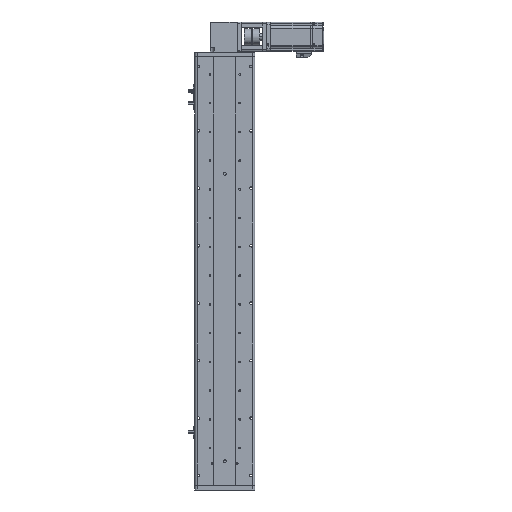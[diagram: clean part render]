
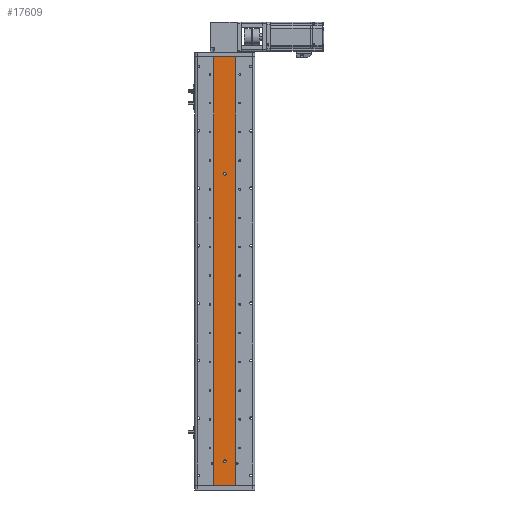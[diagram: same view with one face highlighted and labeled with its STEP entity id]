
A CAD part, front view. The second image highlights one B-rep face of the part: STEP entity #17609.
In plain terms, the highlighted planar face has unit normal (0, -1, 0).
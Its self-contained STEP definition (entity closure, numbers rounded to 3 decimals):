
#16 = LINE ( 'NONE', #1020, #12609 ) ;
#58 = CARTESIAN_POINT ( 'NONE',  ( 23., 1., 447. ) ) ;
#453 = LINE ( 'NONE', #32794, #36598 ) ;
#681 = VERTEX_POINT ( 'NONE', #58 ) ;
#1020 = CARTESIAN_POINT ( 'NONE',  ( 23., 1., -447. ) ) ;
#1435 = DIRECTION ( 'NONE',  ( 0., 0., -1. ) ) ;
#3391 = CIRCLE ( 'NONE', #40937, 3. ) ;
#5125 = ORIENTED_EDGE ( 'NONE', *, *, #14305, .F. ) ;
#5782 = AXIS2_PLACEMENT_3D ( 'NONE', #57994, #29757, #1435 ) ;
#6130 = CARTESIAN_POINT ( 'NONE',  ( 0., 1., 203. ) ) ;
#7127 = CARTESIAN_POINT ( 'NONE',  ( 0., 1., 200. ) ) ;
#10692 = VECTOR ( 'NONE', #52043, 1000. ) ;
#10786 = CARTESIAN_POINT ( 'NONE',  ( 0., 1., -397. ) ) ;
#10842 = EDGE_CURVE ( 'NONE', #681, #25690, #23888, .T. ) ;
#10867 = DIRECTION ( 'NONE',  ( 0., 0., -1. ) ) ;
#11142 = ORIENTED_EDGE ( 'NONE', *, *, #26657, .T. ) ;
#12504 = DIRECTION ( 'NONE',  ( 0., 0., 1. ) ) ;
#12609 = VECTOR ( 'NONE', #38757, 1000. ) ;
#13722 = EDGE_CURVE ( 'NONE', #41852, #50031, #3391, .T. ) ;
#13977 = ORIENTED_EDGE ( 'NONE', *, *, #44255, .F. ) ;
#14305 = EDGE_CURVE ( 'NONE', #15790, #53272, #39441, .T. ) ;
#15554 = DIRECTION ( 'NONE',  ( 0., 0., -1. ) ) ;
#15790 = VERTEX_POINT ( 'NONE', #36862 ) ;
#15983 = VERTEX_POINT ( 'NONE', #43099 ) ;
#17609 = ADVANCED_FACE ( 'NONE', ( #34239, #46843, #21794 ), #40556, .F. ) ;
#18037 = EDGE_CURVE ( 'NONE', #53272, #15790, #60057, .T. ) ;
#19110 = CARTESIAN_POINT ( 'NONE',  ( 23., 1., 447.001 ) ) ;
#21794 = FACE_OUTER_BOUND ( 'NONE', #58313, .T. ) ;
#22004 = CARTESIAN_POINT ( 'NONE',  ( 0., 1., -394. ) ) ;
#23888 = LINE ( 'NONE', #19110, #10692 ) ;
#25451 = CARTESIAN_POINT ( 'NONE',  ( 0., 1., -397. ) ) ;
#25690 = VERTEX_POINT ( 'NONE', #36883 ) ;
#26657 = EDGE_CURVE ( 'NONE', #55710, #15983, #49423, .T. ) ;
#29705 = ORIENTED_EDGE ( 'NONE', *, *, #13722, .F. ) ;
#29757 = DIRECTION ( 'NONE',  ( 0., -1., 0. ) ) ;
#30213 = DIRECTION ( 'NONE',  ( 0., 0., -1. ) ) ;
#32794 = CARTESIAN_POINT ( 'NONE',  ( 23., 1., 447. ) ) ;
#34239 = FACE_BOUND ( 'NONE', #35399, .T. ) ;
#34707 = CIRCLE ( 'NONE', #5782, 3. ) ;
#35140 = ORIENTED_EDGE ( 'NONE', *, *, #10842, .F. ) ;
#35399 = EDGE_LOOP ( 'NONE', ( #29705, #39037 ) ) ;
#36598 = VECTOR ( 'NONE', #52001, 1000. ) ;
#36862 = CARTESIAN_POINT ( 'NONE',  ( 0., 1., -400. ) ) ;
#36883 = CARTESIAN_POINT ( 'NONE',  ( 23., 1., -447. ) ) ;
#37005 = CARTESIAN_POINT ( 'NONE',  ( -23., 1., 447. ) ) ;
#37990 = CARTESIAN_POINT ( 'NONE',  ( 0., 1., 206. ) ) ;
#38757 = DIRECTION ( 'NONE',  ( 1., 0., 0. ) ) ;
#39037 = ORIENTED_EDGE ( 'NONE', *, *, #50616, .F. ) ;
#39075 = DIRECTION ( 'NONE',  ( 0., -1., 0. ) ) ;
#39441 = CIRCLE ( 'NONE', #50074, 3. ) ;
#40556 = PLANE ( 'NONE',  #54779 ) ;
#40766 = DIRECTION ( 'NONE',  ( 0., 1., 0. ) ) ;
#40937 = AXIS2_PLACEMENT_3D ( 'NONE', #6130, #39075, #10867 ) ;
#41852 = VERTEX_POINT ( 'NONE', #7127 ) ;
#43099 = CARTESIAN_POINT ( 'NONE',  ( -23., 1., -447. ) ) ;
#43809 = DIRECTION ( 'NONE',  ( 0., -1., 0. ) ) ;
#44255 = EDGE_CURVE ( 'NONE', #55710, #681, #453, .T. ) ;
#44371 = ORIENTED_EDGE ( 'NONE', *, *, #50568, .T. ) ;
#44899 = AXIS2_PLACEMENT_3D ( 'NONE', #25451, #58458, #30213 ) ;
#46843 = FACE_BOUND ( 'NONE', #51798, .T. ) ;
#47943 = VECTOR ( 'NONE', #51812, 1000. ) ;
#49423 = LINE ( 'NONE', #56574, #47943 ) ;
#50031 = VERTEX_POINT ( 'NONE', #37990 ) ;
#50074 = AXIS2_PLACEMENT_3D ( 'NONE', #10786, #43809, #15554 ) ;
#50353 = ORIENTED_EDGE ( 'NONE', *, *, #18037, .F. ) ;
#50568 = EDGE_CURVE ( 'NONE', #15983, #25690, #16, .T. ) ;
#50616 = EDGE_CURVE ( 'NONE', #50031, #41852, #34707, .T. ) ;
#51798 = EDGE_LOOP ( 'NONE', ( #5125, #50353 ) ) ;
#51812 = DIRECTION ( 'NONE',  ( 0., 0., -1. ) ) ;
#52001 = DIRECTION ( 'NONE',  ( 1., 0., 0. ) ) ;
#52043 = DIRECTION ( 'NONE',  ( 0., 0., -1. ) ) ;
#53272 = VERTEX_POINT ( 'NONE', #22004 ) ;
#54779 = AXIS2_PLACEMENT_3D ( 'NONE', #54834, #40766, #12504 ) ;
#54834 = CARTESIAN_POINT ( 'NONE',  ( 23., 1., 447.001 ) ) ;
#55710 = VERTEX_POINT ( 'NONE', #37005 ) ;
#56574 = CARTESIAN_POINT ( 'NONE',  ( -23., 1., 447.001 ) ) ;
#57994 = CARTESIAN_POINT ( 'NONE',  ( 0., 1., 203. ) ) ;
#58313 = EDGE_LOOP ( 'NONE', ( #11142, #44371, #35140, #13977 ) ) ;
#58458 = DIRECTION ( 'NONE',  ( 0., -1., 0. ) ) ;
#60057 = CIRCLE ( 'NONE', #44899, 3. ) ;
